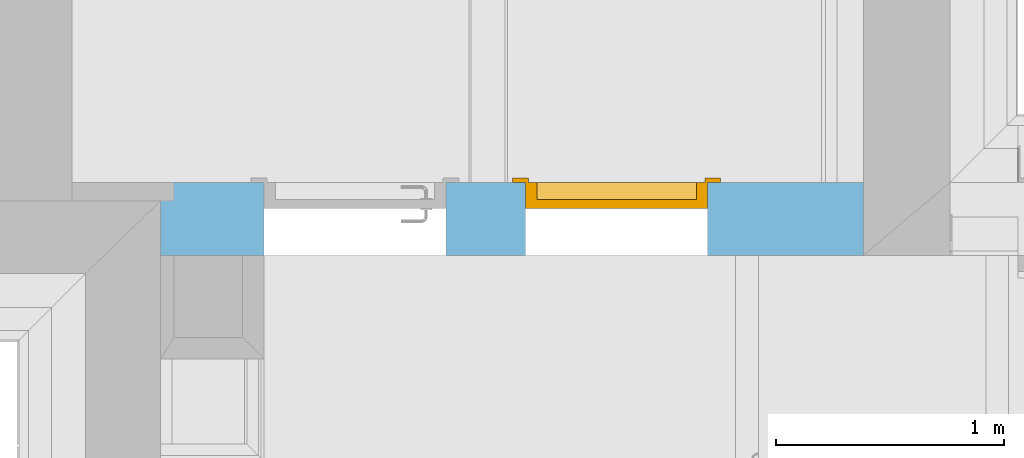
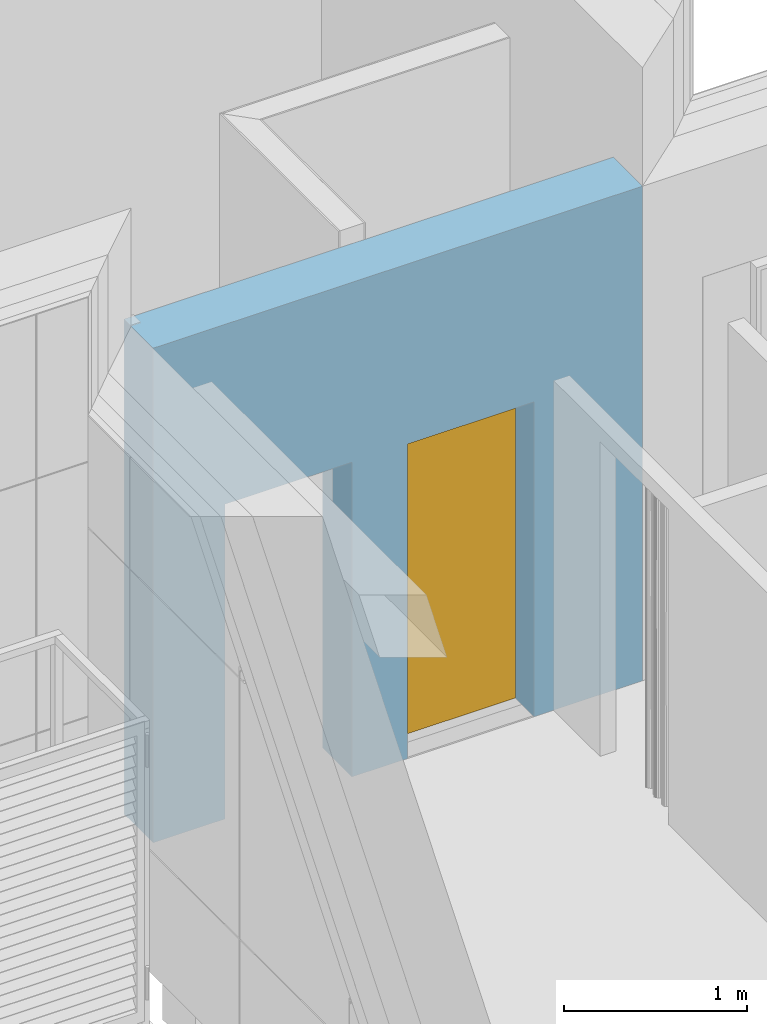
# One storey, part 89 of 418: 1 door, 2 openings, plus 1 element that does not belong to this part.
"""IFC2X3 building model written with IfcOpenShell, lengths in millimetres."""

import ifcopenshell
import ifcopenshell.guid

model = None  # the IFC model being written
_history = None  # IfcOwnerHistory: only IFC2X3 demands one
_inside = {}  # id of a spatial element -> (the spatial element, [elements in it])
_under = {}  # id of a project, library or spatial element -> (it, [spatial elements below it])
_declared = {}  # id of a project -> (the project, [libraries it declares])
_typed = {}  # id of a type object -> (the type object, [elements of that type])
_made_of = {}  # id of a material, layer set ... -> (it, [elements and type objects made of it])


def new_model(schema):
    """Start an empty IFC model of exactly this schema.

    Asked for "IFC4X3", IfcOpenShell would pick the latest addendum, in which some entities
    have other attributes; the version numbers below select the first issue.
    IFC2X3 requires an IfcOwnerHistory on every rooted entity: one is made here for all.
    """
    global model, _history
    if schema == "IFC4X3":
        model = ifcopenshell.file(schema_version=(4, 3, 0, 0))
    else:
        model = ifcopenshell.file(schema=schema)
    _inside.clear()
    _under.clear()
    _declared.clear()
    _typed.clear()
    _made_of.clear()
    _history = None
    if model.schema == "IFC2X3":
        org = make("IfcOrganization", Name="unknown")
        user = make(
            "IfcPersonAndOrganization",
            ThePerson=make("IfcPerson", FamilyName="unknown"),
            TheOrganization=org,
        )
        app = make(
            "IfcApplication",
            ApplicationDeveloper=org,
            Version="unknown",
            ApplicationFullName="unknown",
            ApplicationIdentifier="unknown",
        )
        _history = make(
            "IfcOwnerHistory",
            OwningUser=user,
            OwningApplication=app,
            ChangeAction="ADDED",
            CreationDate=0,
        )
    return model


def make(cls, **values):
    """One entity of the class cls with the attributes given. An attribute that is None is left unset."""
    return model.create_entity(
        cls, **{name: value for name, value in values.items() if value is not None}
    )


def entity(cls, *values):
    """Any entity or typed value of the class cls, its attributes in the order of the schema. None: left unset."""
    e = model.create_entity(cls)
    for i, value in enumerate(values):
        if value is not None:
            e[i] = value
    return e


def rooted(cls, **values):
    """An entity with a GlobalId (a new one), such as an element, a storey or a relation."""
    return make(cls, GlobalId=ifcopenshell.guid.new(), OwnerHistory=_history, **values)


def si_unit(unit_type, name, prefix=None):
    """IfcSIUnit, for example si_unit("LENGTHUNIT", "METRE", prefix="MILLI")."""
    return make("IfcSIUnit", UnitType=unit_type, Prefix=prefix, Name=name)


def converted_unit(unit_type, name, factor, base, dimensions=None, offset=None):
    """IfcConversionBasedUnit, such as the inch: factor (a typed value) times the base unit."""
    return make(
        "IfcConversionBasedUnit"
        if offset is None
        else "IfcConversionBasedUnitWithOffset",
        ConversionOffset=offset,
        Dimensions=None
        if dimensions is None
        else entity("IfcDimensionalExponents", *dimensions),
        UnitType=unit_type,
        Name=name,
        ConversionFactor=make(
            "IfcMeasureWithUnit", ValueComponent=factor, UnitComponent=base
        ),
    )


def derived_unit(unit_type, elements):
    """IfcDerivedUnit: a product of units, each with its exponent."""
    return make(
        "IfcDerivedUnit",
        Elements=[
            make("IfcDerivedUnitElement", Unit=unit, Exponent=power)
            for unit, power in elements
        ],
        UnitType=unit_type,
    )


def money_unit(currency):
    """IfcMonetaryUnit."""
    return make("IfcMonetaryUnit", Currency=currency)


def assignment(units):
    """IfcUnitAssignment: the units of a project."""
    return None if units is None else make("IfcUnitAssignment", Units=units)


def point(xyz):
    """IfcCartesianPoint."""
    return None if xyz is None else make("IfcCartesianPoint", Coordinates=xyz)


def direction(xyz):
    """IfcDirection."""
    return None if xyz is None else make("IfcDirection", DirectionRatios=xyz)


def frame(location, z_axis=None, x_axis=None):
    """IfcAxis2Placement3D, a coordinate frame: its origin and axes. An axis left out is left unset."""
    return make(
        "IfcAxis2Placement3D",
        Location=point(location),
        Axis=direction(z_axis),
        RefDirection=direction(x_axis),
    )


def frame_2d(location, x_axis=None):
    """IfcAxis2Placement2D, a coordinate frame in the plane: its origin and x axis."""
    return make(
        "IfcAxis2Placement2D", Location=point(location), RefDirection=direction(x_axis)
    )


def origin_with_axes():
    """The frame at (0, 0, 0) with the z axis (0, 0, 1) and the x axis (1, 0, 0) written out."""
    return frame((0.0, 0.0, 0.0), z_axis=(0.0, 0.0, 1.0), x_axis=(1.0, 0.0, 0.0))


def origin_2d_with_axis():
    """The frame at (0, 0) in the plane with the x axis (1, 0) written out."""
    return frame_2d((0.0, 0.0), x_axis=(1.0, 0.0))


def place(relative_to, where):
    """IfcLocalPlacement: puts the frame where relative to a parent placement (None: the world)."""
    return make(
        "IfcLocalPlacement", PlacementRelTo=relative_to, RelativePlacement=where
    )


def context(
    kind, dimensions, precision=None, world=None, true_north=None, identifier=None
):
    """IfcGeometricRepresentationContext, for example the 3D "Model" context."""
    return make(
        "IfcGeometricRepresentationContext",
        ContextIdentifier=identifier,
        ContextType=kind,
        CoordinateSpaceDimension=dimensions,
        Precision=precision,
        WorldCoordinateSystem=world,
        TrueNorth=true_north,
    )


def subcontext(parent, identifier, kind, view, scale=None):
    """IfcGeometricRepresentationSubContext, for example "Body" below "Model"."""
    return make(
        "IfcGeometricRepresentationSubContext",
        ContextIdentifier=identifier,
        ContextType=kind,
        ParentContext=parent,
        TargetScale=scale,
        TargetView=view,
    )


def project(units=None, contexts=None):
    """IfcProject with its units and contexts."""
    return rooted(
        "IfcProject",
        Name="project",
        RepresentationContexts=contexts,
        UnitsInContext=assignment(units),
    )


def spatial(cls, under=None, at=None, **own):
    """A site, building, storey or space (cls), placed at a placement, below another one or the project."""
    s = rooted(cls, ObjectPlacement=at, **own)
    if under is not None:
        _under.setdefault(under.id(), (under, []))[1].append(s)
    return s


def polyline(points):
    """IfcPolyline through the points."""
    return make("IfcPolyline", Points=[point(p) for p in points])


def profile(cls, at=None, kind="AREA", **sizes):
    """A parametric profile (cls). Its sizes go by their IFC names, for example OverallWidth=200.0."""
    return make(cls, ProfileType=kind, Position=at, **sizes)


def rectangle(**sizes):
    """IfcRectangleProfileDef."""
    return profile("IfcRectangleProfileDef", **sizes)


def outline(outer, holes=None, kind="AREA"):
    """IfcArbitraryClosedProfileDef: a profile drawn as a closed curve; with holes, ...WithVoids."""
    if holes is None:
        return make("IfcArbitraryClosedProfileDef", ProfileType=kind, OuterCurve=outer)
    return make(
        "IfcArbitraryProfileDefWithVoids",
        ProfileType=kind,
        OuterCurve=outer,
        InnerCurves=holes,
    )


def extrude(swept, where, along, depth):
    """IfcExtrudedAreaSolid: the profile swept, set in the frame where, extruded along a direction by depth."""
    return make(
        "IfcExtrudedAreaSolid",
        SweptArea=swept,
        Position=where,
        ExtrudedDirection=direction(along),
        Depth=depth,
    )


def faces_of(points, faces, orient=None, outer=None):
    """IfcFace entities. A face is a list of loops; a loop is a list of indices into points, from 0.

    orient and outer hold one flag for each loop. By default every Orientation is true, the
    first loop of a face is its IfcFaceOuterBound and the others are IfcFaceBound.
    """
    made = []
    for i, loops in enumerate(faces):
        bounds = []
        for j, loop in enumerate(loops):
            is_outer = j == 0 if outer is None else outer[i][j]
            bounds.append(
                make(
                    "IfcFaceOuterBound" if is_outer else "IfcFaceBound",
                    Bound=make("IfcPolyLoop", Polygon=[points[k] for k in loop]),
                    Orientation=True if orient is None else orient[i][j],
                )
            )
        made.append(make("IfcFace", Bounds=bounds))
    return made


def faceted_brep(points, faces, orient=None, outer=None, voids=None):
    """IfcFacetedBrep: a solid bounded by flat faces; with voids (closed shells), ...WithVoids."""
    shared = [point(p) for p in points]
    hull = make("IfcClosedShell", CfsFaces=faces_of(shared, faces, orient, outer))
    if voids is None:
        return make("IfcFacetedBrep", Outer=hull)
    return make(
        "IfcFacetedBrepWithVoids",
        Outer=hull,
        Voids=[
            make(cls, CfsFaces=faces_of(shared, fs, o, b)) for cls, fs, o, b in voids
        ],
    )


def shape(context_of_items, identifier, shape_type, items):
    """IfcShapeRepresentation: the items that make up one representation, for example the "Body"."""
    return make(
        "IfcShapeRepresentation",
        ContextOfItems=context_of_items,
        RepresentationIdentifier=identifier,
        RepresentationType=shape_type,
        Items=items,
    )


def material(Name=None, Category=None):
    """IfcMaterial."""
    return make("IfcMaterial", Name=Name, Category=Category)


def layer(
    of_material, thickness, ventilated=None, Name=None, Category=None, Priority=None
):
    """IfcMaterialLayer: one layer of a wall or slab, of a material (None: an air gap)."""
    return make(
        "IfcMaterialLayer",
        Material=of_material,
        LayerThickness=thickness,
        IsVentilated=ventilated,
        Name=Name,
        Category=Category,
        Priority=Priority,
    )


def layer_set(layers, Name=None):
    """IfcMaterialLayerSet."""
    return make("IfcMaterialLayerSet", MaterialLayers=layers, LayerSetName=Name)


def layer_usage(for_layer_set, set_direction, sense, offset, extent=None):
    """IfcMaterialLayerSetUsage: how a layer set lies in its element."""
    return make(
        "IfcMaterialLayerSetUsage",
        ForLayerSet=for_layer_set,
        LayerSetDirection=set_direction,
        DirectionSense=sense,
        OffsetFromReferenceLine=offset,
        ReferenceExtent=extent,
    )


def made_of(thing, what):
    """Note that an element or type object is made of a material, layer set ...; save() writes the relation."""
    if what is not None:
        _made_of.setdefault(what.id(), (what, []))[1].append(thing)
    return thing


def type_object(cls, material=None, **own):
    """A type object (cls), such as IfcWallType, which elements share."""
    return made_of(rooted(cls, **own), material)


def element(
    cls,
    number,
    at=None,
    inside=None,
    cuts=None,
    type_object=None,
    material=None,
    context=None,
    identifier="Body",
    shape_type=None,
    held_by="IfcProductDefinitionShape",
    body=None,
    shapes=None,
    **own,
):
    """One element of the class cls, such as IfcWall. Its Tag is "e" and its number.

    at: its placement. inside: the storey or other place that contains it. cuts: it is an
    opening in that element (IfcRelVoidsElement). A single representation is given by context,
    identifier, shape_type and body (its items); several are given by shapes. held_by: the class
    of the entity that holds the representations. save() writes the other relations.
    """
    e = rooted(cls, Tag="e%d" % number, ObjectPlacement=at, **own)
    if body is not None:
        shapes = [shape(context, identifier, shape_type, body)]
    if shapes is not None:
        e.Representation = make(held_by, Representations=shapes)
    if inside is not None:
        _inside.setdefault(inside.id(), (inside, []))[1].append(e)
    if cuts is not None:
        rooted(
            "IfcRelVoidsElement", RelatingBuildingElement=cuts, RelatedOpeningElement=e
        )
    if type_object is not None:
        _typed.setdefault(type_object.id(), (type_object, []))[1].append(e)
    return made_of(e, material)


def fill(opening, filler):
    """IfcRelFillsElement: the door or window that sits in an opening."""
    return rooted(
        "IfcRelFillsElement",
        RelatingOpeningElement=opening,
        RelatedBuildingElement=filler,
    )


def aggregate(whole, parts):
    """IfcRelAggregates: a whole, such as a stair, and the parts it consists of."""
    return rooted("IfcRelAggregates", RelatingObject=whole, RelatedObjects=parts)


def save(model, path):
    """Write the relations noted so far, then the file.

    IfcRelAggregates (storeys below a building ...), IfcRelContainedInSpatialStructure (elements
    in a storey), IfcRelDefinesByType, IfcRelAssociatesMaterial and IfcRelDeclares: one each for
    every whole, place, type object, material and project.
    """
    for whole, parts in _under.values():
        aggregate(whole, parts)
    for where, things in _inside.values():
        rooted(
            "IfcRelContainedInSpatialStructure",
            RelatedElements=things,
            RelatingStructure=where,
        )
    for kind, things in _typed.values():
        rooted("IfcRelDefinesByType", RelatedObjects=things, RelatingType=kind)
    for what, things in _made_of.values():
        rooted("IfcRelAssociatesMaterial", RelatedObjects=things, RelatingMaterial=what)
    for by, libraries in _declared.values():
        rooted("IfcRelDeclares", RelatingContext=by, RelatedDefinitions=libraries)
    model.write(path)


model = new_model("IFC2X3")

# Units and contexts
model_context = context("Model", 3, precision=0.01, world=origin_with_axes(), true_north=direction((0.0, 1.0)))
body_context = subcontext(model_context, "Body", "Model", "MODEL_VIEW")
ifc_project = project(units=[si_unit("LENGTHUNIT", "METRE", prefix="MILLI"), si_unit("AREAUNIT", "SQUARE_METRE"), si_unit("VOLUMEUNIT", "CUBIC_METRE"), converted_unit("PLANEANGLEUNIT", "DEGREE", entity("IfcPlaneAngleMeasure", 0.0174532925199), si_unit("PLANEANGLEUNIT", "RADIAN"), dimensions=[0, 0, 0, 0, 0, 0, 0]), si_unit("SOLIDANGLEUNIT", "STERADIAN"), money_unit("EUR"), converted_unit("TIMEUNIT", "Year", entity("IfcTimeMeasure", 31556926.0), si_unit("TIMEUNIT", "SECOND"), dimensions=[0, 0, 1, 0, 0, 0, 0]), si_unit("MASSUNIT", "GRAM", prefix="KILO"), si_unit("THERMODYNAMICTEMPERATUREUNIT", "DEGREE_CELSIUS"), si_unit("LUMINOUSINTENSITYUNIT", "LUMEN"), si_unit("ENERGYUNIT", "JOULE", prefix="MEGA"), derived_unit("THERMALCONDUCTANCEUNIT", [(si_unit("POWERUNIT", "WATT"), 1), (si_unit("LENGTHUNIT", "METRE"), -1), (si_unit("THERMODYNAMICTEMPERATUREUNIT", "KELVIN"), -1)]), derived_unit("SPECIFICHEATCAPACITYUNIT", [(si_unit("ENERGYUNIT", "JOULE"), 1), (si_unit("MASSUNIT", "GRAM", prefix="KILO"), -1), (si_unit("THERMODYNAMICTEMPERATUREUNIT", "KELVIN"), -1)]), derived_unit("MASSDENSITYUNIT", [(si_unit("MASSUNIT", "GRAM", prefix="KILO"), 1), (si_unit("VOLUMEUNIT", "CUBIC_METRE"), -1)])], contexts=[model_context])

# Site, building, storey
site_placement = place(None, origin_with_axes())
site = spatial("IfcSite", under=ifc_project, at=site_placement, Name="Paldiski mnt 245/1, Tallinn, Harjumaa", CompositionType="COMPLEX")
building_placement = place(site_placement, origin_with_axes())
building = spatial("IfcBuilding", under=site, at=building_placement, Name="RKAS Hoone üldnimetus (kasutust iseloomustav) -> IFC Project Manager -> SOLIBRI", CompositionType="ELEMENT")
storey_placement = place(building_placement, origin_with_axes())
storey = spatial("IfcBuildingStorey", under=building, at=storey_placement, Name="Esimene korrus", CompositionType="ELEMENT", Elevation=0.0)

# Wall, openings, door
ifc_material = material(Name="Olemasolev silikaltsiitplokk")
ifc_layer = layer(ifc_material, 320.0, ventilated="UNKNOWN")
ifc_layer_set = layer_set([ifc_layer], Name="Olemasolev silikaltsiitplokk 320")
ifc_layer_usage = layer_usage(ifc_layer_set, "AXIS2", "NEGATIVE", 0.0)
wall_type = type_object("IfcWallType", Name="Olemasolev silikaltsiitplokk 320", PredefinedType="NOTDEFINED")
wall_placement = place(storey_placement, frame((-47650.0, 210.000000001, 0.0), z_axis=(0.0, 0.0, 1.0), x_axis=(1.0, 0.0, 0.0)))
wall = element("IfcWallStandardCase", 1, at=wall_placement, inside=storey, type_object=wall_type, material=ifc_layer_usage, Name="SS-02", context=body_context, shape_type="SweptSolid", body=[
    extrude(outline(polyline([(0.0, -320.0), (3089.44954137, -320.0), (3089.44954137, 0.0), (0.0, 0.0), (0.0, -320.0)])), origin_with_axes(), (0.0, 0.0, 1.0), 3300.0),
])
opening_1_placement = place(wall_placement, frame((2005.0, 0.0, 0.0), z_axis=(0.0, 0.0, 1.0), x_axis=(1.0, 0.0, 0.0)))
opening_1 = element("IfcOpeningElement", 2, at=opening_1_placement, cuts=wall, Name="SU-08v", context=body_context, shape_type="SweptSolid", body=[
    extrude(rectangle(XDim=800.0, YDim=2100.0, at=origin_2d_with_axis()), frame((0.0, -115.0, 1050.0), z_axis=(0.0, 1.0, 0.0), x_axis=(-1.0, 0.0, 0.0)), (0.0, 0.0, -1.0), 525.0),
    extrude(rectangle(XDim=800.0, YDim=2100.0, at=origin_2d_with_axis()), frame((0.0, -115.0, 1050.0), z_axis=(0.0, -1.0, 0.0), x_axis=(-1.0, 0.0, 0.0)), (0.0, 0.0, -1.0), 435.0),
    extrude(rectangle(XDim=914.0, YDim=2157.0, at=origin_2d_with_axis()), frame((0.0, 0.0, 1078.5), z_axis=(0.0, -1.0, 0.0), x_axis=(-1.0, 0.0, 0.0)), (0.0, 0.0, -1.0), 525.0),
])
opening_2_placement = place(wall_placement, frame((855.0, 0.0, 0.0), z_axis=(0.0, 0.0, 1.0), x_axis=(1.0, 0.0, 0.0)))
element("IfcOpeningElement", 3, at=opening_2_placement, cuts=wall, Name="TSU-03v", context=body_context, shape_type="SweptSolid", body=[
    extrude(rectangle(XDim=800.0, YDim=2100.0, at=origin_2d_with_axis()), frame((0.0, -115.0, 1050.0), z_axis=(0.0, 1.0, 0.0), x_axis=(-1.0, 0.0, 0.0)), (0.0, 0.0, -1.0), 525.0),
    extrude(rectangle(XDim=800.0, YDim=2100.0, at=origin_2d_with_axis()), frame((0.0, -115.0, 1050.0), z_axis=(0.0, -1.0, 0.0), x_axis=(-1.0, 0.0, 0.0)), (0.0, 0.0, -1.0), 435.0),
    extrude(rectangle(XDim=914.0, YDim=2157.0, at=origin_2d_with_axis()), frame((0.0, 0.0, 1078.5), z_axis=(0.0, -1.0, 0.0), x_axis=(-1.0, 0.0, 0.0)), (0.0, 0.0, -1.0), 525.0),
])
door_style = type_object("IfcDoorStyle", Name="Door 23", ConstructionType="NOTDEFINED", OperationType="SINGLE_SWING_RIGHT", ParameterTakesPrecedence=False, Sizeable=False)
door_placement = place(opening_1_placement, frame((400.0, 0.0, 0.0), z_axis=(0.0, 0.0, 1.0), x_axis=(-1.0, 0.0, 0.0)))
door = element("IfcDoor", 4, at=door_placement, inside=storey, type_object=door_style, Name="SU-08v", ObjectType="DOOR", OverallHeight=2100.0, OverallWidth=800.0, context=body_context, shape_type="Brep", body=[
    faceted_brep([(762.0, 75.0, 0.0), (762.0, 75.0, 20.0), (750.0, 75.0, 20.0), (750.0, 75.0, 0.0), (38.0, 74.9999999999, 0.0), (38.0, 74.9999999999, 20.0), (50.0, 74.9999999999, 20.0), (50.0, 0.0, 20.0), (750.0, 0.0, 20.0), (750.0, 0.0, 0.0), (50.0, 0.0, 0.0), (50.0, 74.9999999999, 0.0)], [[[0, 1, 2, 3]], [[4, 5, 1, 0]], [[1, 5, 6, 7, 8, 2]], [[3, 2, 8, 9]], [[0, 3, 9, 10, 11, 4]], [[11, 6, 5, 4]], [[10, 7, 6, 11]], [[9, 8, 7, 10]]]),
    faceted_brep([(-57.0, -19.0000000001, 0.0), (-57.0, 0.0, 0.0), (13.0, 0.0, 0.0), (13.0, -19.0000000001, 0.0), (-57.0, -19.0000000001, 2157.0), (-57.0, 0.0, 2157.0), (13.0, 0.0, 2087.0), (13.0, -19.0000000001, 2087.0)], [[[0, 1, 2, 3]], [[4, 5, 1, 0]], [[1, 5, 6, 2]], [[3, 2, 6, 7]], [[0, 3, 7, 4]], [[7, 6, 5, 4]]]),
    faceted_brep([(857.0, -19.0, 2157.0), (857.0, 0.0, 2157.0), (787.0, 0.0, 2087.0), (787.0, -19.0, 2087.0), (857.0, -19.0, 0.0), (857.0, 0.0, 0.0), (787.0, 0.0, 0.0), (787.0, -19.0, 0.0)], [[[0, 1, 2, 3]], [[4, 5, 1, 0]], [[1, 5, 6, 2]], [[3, 2, 6, 7]], [[0, 3, 7, 4]], [[7, 6, 5, 4]]]),
    faceted_brep([(-57.0, -19.0000000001, 2157.0), (-57.0, 0.0, 2157.0), (13.0, 0.0, 2087.0), (13.0, -19.0000000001, 2087.0), (857.0, -19.0, 2157.0), (857.0, 0.0, 2157.0), (787.0, 0.0, 2087.0), (787.0, -19.0, 2087.0)], [[[0, 1, 2, 3]], [[4, 5, 1, 0]], [[1, 5, 6, 2]], [[3, 2, 6, 7]], [[0, 3, 7, 4]], [[7, 6, 5, 4]]]),
    faceted_brep([(50.0, 74.9999999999, 0.0), (50.0, 74.9999999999, 2050.0), (50.0, 0.0, 2050.0), (50.0, 0.0, 0.0), (38.0, 74.9999999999, 2050.0), (38.0, 74.9999999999, 0.0), (38.0, 115.0, 2050.0), (0.0, 115.0, 2050.0), (0.0, 0.0, 2050.0), (0.0, 0.0, 0.0), (0.0, 115.0, 0.0), (38.0, 115.0, 0.0)], [[[0, 1, 2, 3]], [[4, 1, 0, 5]], [[4, 6, 7, 8, 2, 1]], [[3, 2, 8, 9]], [[5, 0, 3, 9, 10, 11]], [[6, 4, 5, 11]], [[6, 11, 10, 7]], [[10, 9, 8, 7]]]),
    faceted_brep([(762.0, 75.0, 2050.0), (750.0, 75.0, 2050.0), (750.0, 0.0, 2050.0), (800.0, 0.0, 2050.0), (800.0, 115.0, 2050.0), (762.0, 115.0, 2050.0), (762.0, 75.0, 0.0), (750.0, 75.0, 0.0), (750.0, 0.0, 0.0), (800.0, 0.0, 0.0), (800.0, 115.0, 0.0), (762.0, 115.0, 0.0)], [[[0, 1, 2, 3, 4, 5]], [[1, 0, 6, 7]], [[1, 7, 8, 2]], [[3, 2, 8, 9]], [[4, 3, 9, 10]], [[11, 5, 4, 10]], [[0, 5, 11, 6]], [[6, 11, 10, 9, 8, 7]]]),
    faceted_brep([(38.0, 115.0, 2062.0), (38.0, 115.0, 2050.0), (0.0, 115.0, 2050.0), (0.0, 115.0, 2100.0), (800.0, 115.0, 2100.0), (800.0, 115.0, 2050.0), (762.0, 115.0, 2050.0), (762.0, 115.0, 2062.0), (38.0, 74.9999999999, 2062.0), (38.0, 74.9999999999, 2050.0), (50.0, 74.9999999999, 2050.0), (50.0, 0.0, 2050.0), (0.0, 0.0, 2050.0), (0.0, 0.0, 2100.0), (800.0, 0.0, 2100.0), (800.0, 0.0, 2050.0), (762.0, 75.0, 2050.0), (750.0, 0.0, 2050.0), (750.0, 75.0, 2050.0), (762.0, 75.0, 2062.0)], [[[0, 1, 2, 3, 4, 5, 6, 7]], [[1, 0, 8, 9]], [[9, 10, 11, 12, 2, 1]], [[2, 12, 13, 3]], [[3, 13, 14, 4]], [[4, 14, 15, 5]], [[16, 6, 5, 15, 17, 18]], [[7, 6, 16, 19]], [[0, 7, 19, 8]], [[16, 18, 10, 9, 8, 19]], [[10, 18, 17, 11]], [[17, 15, 14, 13, 12, 11]]]),
    faceted_brep([(762.0, 115.0, 0.0), (762.0, 75.0, 0.0), (38.0, 74.9999999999, 0.0), (38.0, 115.0, 0.0), (762.0, 115.0, 2062.0), (762.0, 75.0, 2062.0), (38.0, 74.9999999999, 2062.0), (38.0, 115.0, 2062.0)], [[[0, 1, 2, 3]], [[4, 5, 1, 0]], [[1, 5, 6, 2]], [[3, 2, 6, 7]], [[0, 3, 7, 4]], [[7, 6, 5, 4]]]),
])
fill(opening_1, door)

save(model, "model.ifc")
